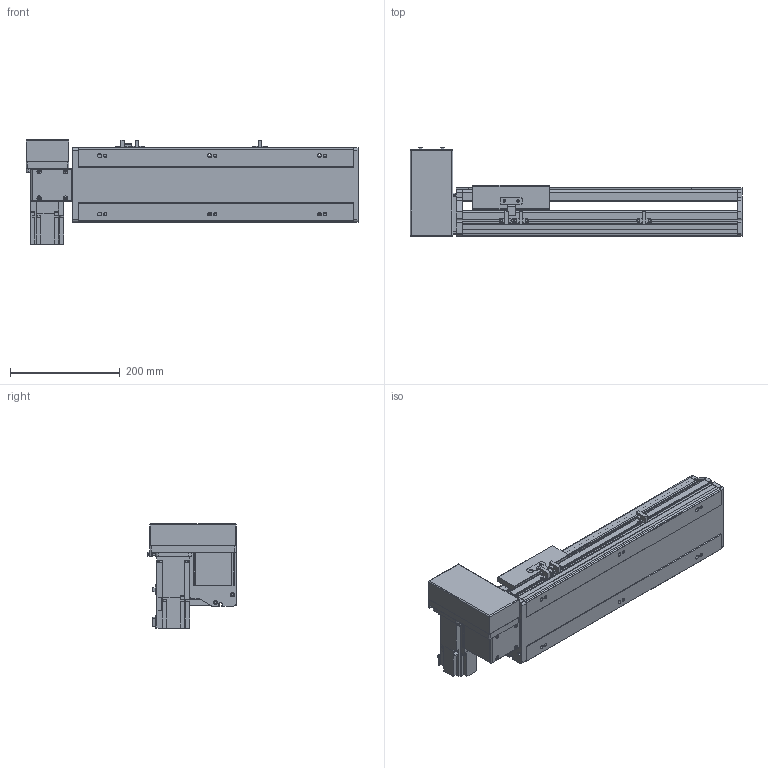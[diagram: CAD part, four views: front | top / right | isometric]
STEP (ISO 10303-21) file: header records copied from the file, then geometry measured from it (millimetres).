
FILE_DESCRIPTION( ( 'STEP AP214' ), '1' );
FILE_NAME( 'x:/temp/worker_6/temp/exporttempdir_5396_204_uffja/format_0/PBS140S-P40-S250-RU-T40-C1-N(0).stp', '2022-06-09T00:53:45', ( 'License CC BY-ND 4.0' ), ( 'CADENAS' ), ' ', 'PARTsolutions', ' ' );
FILE_SCHEMA( ( 'AUTOMOTIVE_DESIGN { 1 0 10303 214 1 1 1 1 }' ) );
Length unit declared in the file: millimetre
Products named in the file (7): PBS140S-P40-S250-RU-T40-C1-N(0); _PBS140S-S250()_body; _PBS140ST-RU_motors; _T40-p1; _PBS140S_sliser; _PBS140S_plant; _PBS140S_sensor
Assembly tree (8 placements, depth 2):
  PBS140S-P40-S250-RU-T40-C1-N(0)
    _PBS140S-S250()_body
    _PBS140ST-RU_motors
    _T40-p1
    _PBS140S_sliser
    _PBS140S_plant
    _PBS140S_sensor  x3
Bounding box: 604 x 162.5 x 189.7 mm (x, y, z)
Volume: 3625691.7 mm3; surface area: 659602.8 mm2
Topology: 8 solids, 8 shells, 1019 faces, 2711 edges, 1775 vertices
Faces by surface type: plane 672, cylinder 305, cone 32, sphere 8, torus 2
Full cylindrical faces by diameter (mm): 3.242 x4, 4 x2, 4.134 x4, 4.4 x8, 4.5 x2, 4.8 x4, 4.917 x14, 5.5 x7, 6 x2, 7 x8, 7.5 x8, 8 x12, 8.5 x4, 10.5 x6, 14 x1, 30 x2, 50 x2
Entity records: 37126 total; most frequent: CARTESIAN_POINT 5566, DIRECTION 4998, ORIENTED_EDGE 4762, EDGE_CURVE 2381, AXIS2_PLACEMENT_3D 1709, VERTEX_POINT 1633, LINE 1580, VECTOR 1580
